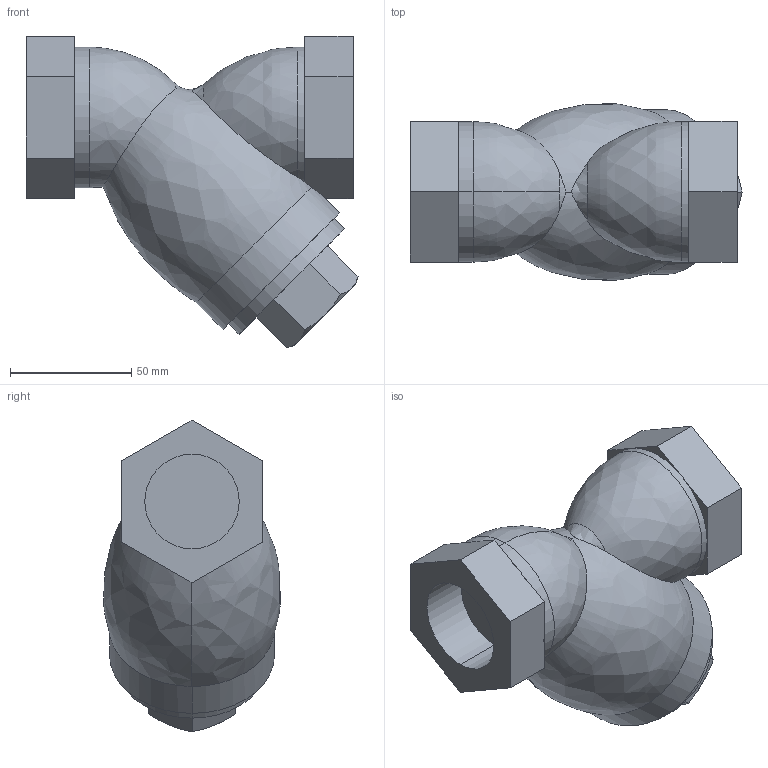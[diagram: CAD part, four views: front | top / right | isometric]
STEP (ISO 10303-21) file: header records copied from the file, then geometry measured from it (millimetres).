
FILE_DESCRIPTION( (''), '2;1');
FILE_NAME ('PC1276.13976.SY-5 32A_1067.stp','2025-09-19T09:18:01',(''),(''),'spGate 20.6.3 (****-****-****-****)','','');
FILE_SCHEMA (('AUTOMOTIVE_DESIGN'));
Length unit declared in the file: millimetre
Bounding box: 137 x 73 x 128.49 mm (x, y, z)
Volume: 529096 mm3; surface area: 51228.2 mm2
Topology: 1 solids, 1 shells, 62 faces, 149 edges, 93 vertices
Faces by surface type: plane 38, bspline 13, cylinder 11
Entity records: 3375 total; most frequent: CARTESIAN_POINT 815, ORIENTED_EDGE 298, DIRECTION 250, COLOUR_RGB 212, PRESENTATION_STYLE_ASSIGNMENT 212, STYLED_ITEM 212, EDGE_CURVE 149, DRAUGHTING_PRE_DEFINED_CURVE_FONT 149
